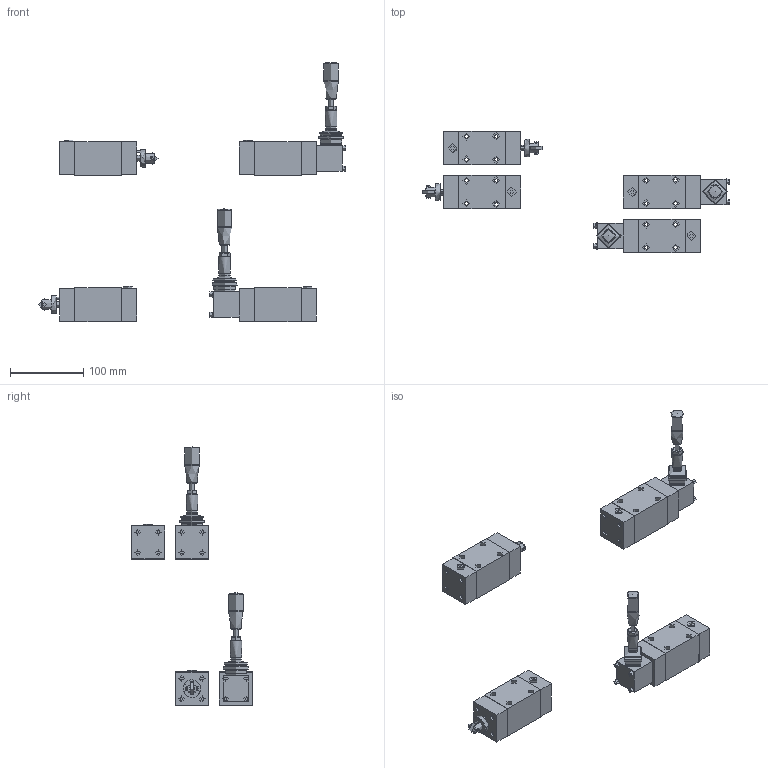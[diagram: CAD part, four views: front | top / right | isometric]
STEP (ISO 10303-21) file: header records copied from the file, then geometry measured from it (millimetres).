
FILE_DESCRIPTION(('Bauteilbeschreibung','HiCAD-Model','HiCAD-STEP-TRANSLATION','Bauteilbeschreibung'),'2;1');
FILE_NAME('D:/A_4_6.STP','2006-08-07T14:45:48+00:00',('Konstrukteur'),('Konstrukteur Firma GmbH'),'HiCAD3 V1210 STEP 1.6.2005','HiCAD3 V1210','confidential');
FILE_SCHEMA(('AUTOMOTIVE_DESIGN { 1 2 10303 214 0 1 1 1 }'));
Length unit declared in the file: millimetre
Products named in the file (97): A_4_6; AH4_6_A; A9DC46B9; ADA6AB1C; ADA6AB1C0; IN6KTM4; IN6KTM40; IN6KTM41; IN6KTM42; IN6KTM43; A9FF7619; C79DC446; A6B68E08; A6B68E080; FALTENBA; GRIFF; IN6KTM44; IN6KTM45; IN6KTM46; IN6KTM47; IN6KTM48; U_SCHEIBE; U0SCHEIBE; U0SCHEIBE0; U0SCHEIBE1; U0SCHEIBE2; AT4_6_A; A7AAF219; ADA6AB1C1; ADA6AB1C2; IN6KTM49; IN6KTM410; IN6KTM411; IN6KTM412; IN6KTM413; C79DC4460; A0CAA587; A0CAA5870; RING; STIFT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
Assembly tree (96 placements, depth 6):
  A_4_6
    AH4_6_A
      A9DC46B9
        ADA6AB1C
        ADA6AB1C0
          IN6KTM4
            IN6KTM40
            IN6KTM41
            IN6KTM42
            IN6KTM43
        A9FF7619
        C79DC446
        A6B68E08
        A6B68E080
          FALTENBA
          GRIFF
        IN6KTM44
          IN6KTM45
          IN6KTM46
          IN6KTM47
          IN6KTM48
          U_SCHEIBE
            U0SCHEIBE
            U0SCHEIBE0
            U0SCHEIBE1
            U0SCHEIBE2
    AT4_6_A
      A7AAF219
        ADA6AB1C1
        ADA6AB1C2
          IN6KTM49
            IN6KTM410
            IN6KTM411
            IN6KTM412
            IN6KTM413
        C79DC4460
        A0CAA587
        A0CAA5870
          RING
          STIFT
          ROLLE
          KOLBEN
          STIFT0
        NA_3DFLANSCH_NG6_MECHB 
        IN6KTM414
          IN6KTM415
          IN6KTM416
          IN6KTM417
          IN6KTM418
    AT4_6_B
      CFC45060
        ADA6AB1C3
        ADA6AB1C4
          IN6KTM419
            IN6KTM420
            IN6KTM421
            IN6KTM422
            IN6KTM423
        C79DC4461
        A0CAA5871
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Bounding box: 420 x 166 x 354 mm (x, y, z)
Topology: 70 solids, 72 shells, 880 faces, 1909 edges, 1303 vertices
Faces by surface type: plane 588, cylinder 254, cone 26, torus 10, sphere 2
Full cylindrical faces by diameter (mm): 2.99 x4, 3.2 x8, 4 x42, 4.5 x40, 5.5 x16, 6 x2, 7 x32, 7.12 x2, 7.6 x8, 8 x28, 9.5 x16, 12 x4, 12.5 x16, 14 x2, 14.5 x2, 16 x6, 20 x2, 24 x2, 27.5 x2, 29.5 x4
Entity records: 47006 total; most frequent: CARTESIAN_POINT 11988, DIRECTION 4088, ORIENTED_EDGE 2976, COLOUR_RGB 2438, PRESENTATION_STYLE_ASSIGNMENT 2438, OVER_RIDING_STYLED_ITEM 2368, AXIS2_PLACEMENT_3D 1596, CURVE_STYLE 1488
